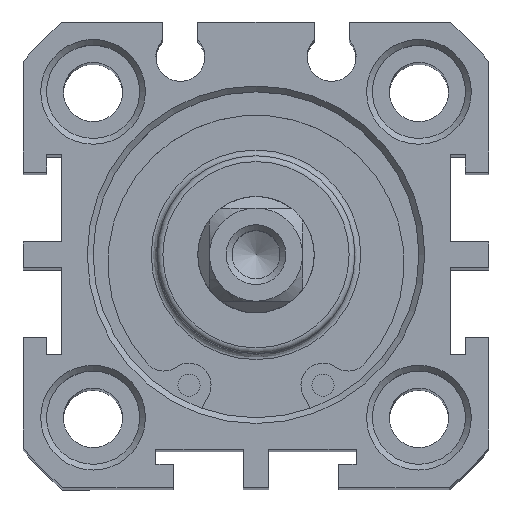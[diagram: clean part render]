
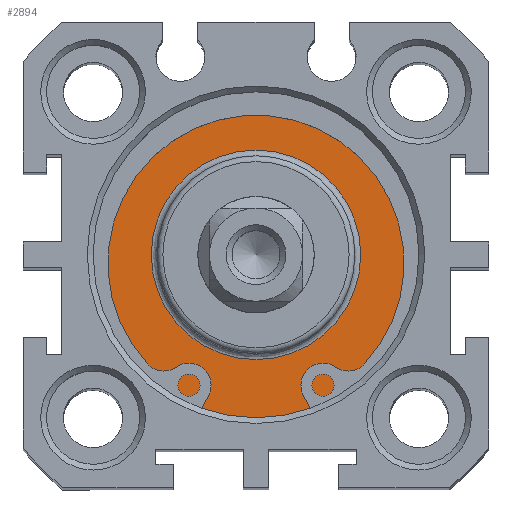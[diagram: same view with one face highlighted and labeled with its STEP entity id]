
A CAD part, top view. The second image highlights one B-rep face of the part: STEP entity #2894.
In plain terms, the highlighted planar face has unit normal (0, 0, 1).
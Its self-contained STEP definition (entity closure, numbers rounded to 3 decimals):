
#2843=CARTESIAN_POINT('',(-2.524,11.284,118.3));
#2844=VERTEX_POINT('',#2843);
#2845=CARTESIAN_POINT('',(-2.524,2.284,118.3));
#2846=DIRECTION('',(0.0,0.0,1.0));
#2847=DIRECTION('',(0.0,-1.0,0.0));
#2848=AXIS2_PLACEMENT_3D('',#2845,#2846,#2847);
#2849=CIRCLE('',#2848,9.);
#2850=EDGE_CURVE('',#2844,#2844,#2849,.T.);
#2875=CARTESIAN_POINT('',(-2.524,13.534,118.3));
#2876=DIRECTION('',(0.0,0.0,1.0));
#2877=DIRECTION('',(1.0,0.0,0.0));
#2878=AXIS2_PLACEMENT_3D('',#2875,#2876,#2877);
#2879=PLANE('',#2878);
#2880=CARTESIAN_POINT('',(-2.524,16.284,118.3));
#2881=VERTEX_POINT('',#2880);
#2882=CARTESIAN_POINT('',(-2.524,2.284,118.3));
#2883=DIRECTION('',(0.0,0.0,-1.0));
#2884=DIRECTION('',(0.0,1.0,0.0));
#2885=AXIS2_PLACEMENT_3D('',#2882,#2883,#2884);
#2886=CIRCLE('',#2885,14.);
#2887=EDGE_CURVE('',#2881,#2881,#2886,.T.);
#2888=ORIENTED_EDGE('',*,*,#2887,.F.);
#2889=EDGE_LOOP('',(#2888));
#2890=FACE_OUTER_BOUND('',#2889,.T.);
#2891=ORIENTED_EDGE('',*,*,#2850,.F.);
#2892=EDGE_LOOP('',(#2891));
#2893=FACE_BOUND('',#2892,.T.);
#2894=ADVANCED_FACE('',(#2890,#2893),#2879,.T.);
